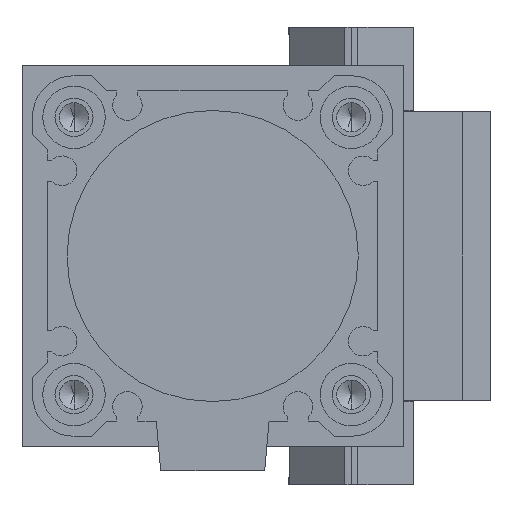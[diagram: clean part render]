
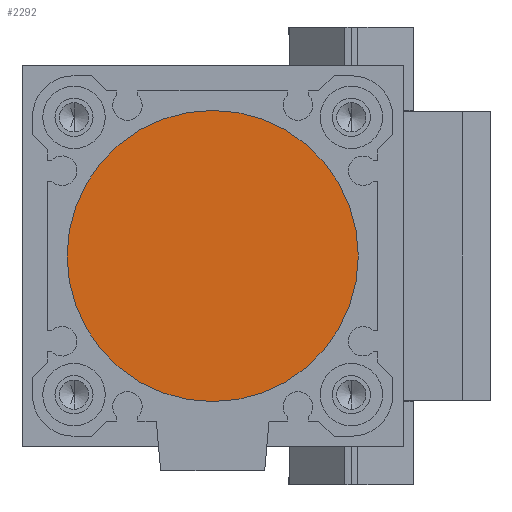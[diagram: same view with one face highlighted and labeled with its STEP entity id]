
A CAD part, front view. The second image highlights one B-rep face of the part: STEP entity #2292.
In plain terms, the highlighted planar face has unit normal (0, -1, 0) as drawn and (1, 0, 0) by its records, which use the part's own axes.
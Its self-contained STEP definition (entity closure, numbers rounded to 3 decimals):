
#246 = AXIS2_PLACEMENT_3D ( 'NONE', #6727, #6738, #6739 ) ;
#504 = FACE_OUTER_BOUND ( 'NONE', #2551, .T. ) ;
#992 = VERTEX_POINT ( 'NONE', #4271 ) ;
#993 = VERTEX_POINT ( 'NONE', #4272 ) ;
#1622 = EDGE_CURVE ( 'NONE', #992, #993, #3023, .T. ) ;
#2054 = CIRCLE ( 'NONE', #5067, 21. ) ;
#2292 = ADVANCED_FACE ( 'NONE', ( #504 ), #6736, .T. ) ;
#2551 = EDGE_LOOP ( 'NONE', ( #6152, #6153 ) ) ;
#2913 = CARTESIAN_POINT ( 'NONE',  ( 77.5, 0., 0. ) ) ;
#2914 = DIRECTION ( 'NONE',  ( 1., 0., 0. ) ) ;
#2915 = DIRECTION ( 'NONE',  ( 0., 0., -1. ) ) ;
#3023 = CIRCLE ( 'NONE', #4918, 21. ) ;
#4271 = CARTESIAN_POINT ( 'NONE',  ( 77.5, 0., 21. ) ) ;
#4272 = CARTESIAN_POINT ( 'NONE',  ( 77.5, 0., -21. ) ) ;
#4816 = CARTESIAN_POINT ( 'NONE',  ( 77.5, 0., 0. ) ) ;
#4817 = DIRECTION ( 'NONE',  ( 1., 0., 0. ) ) ;
#4818 = DIRECTION ( 'NONE',  ( 0., 0., -1. ) ) ;
#4918 = AXIS2_PLACEMENT_3D ( 'NONE', #4816, #4817, #4818 ) ;
#5067 = AXIS2_PLACEMENT_3D ( 'NONE', #2913, #2914, #2915 ) ;
#5625 = EDGE_CURVE ( 'NONE', #993, #992, #2054, .T. ) ;
#6152 = ORIENTED_EDGE ( 'NONE', *, *, #5625, .T. ) ;
#6153 = ORIENTED_EDGE ( 'NONE', *, *, #1622, .T. ) ;
#6727 = CARTESIAN_POINT ( 'NONE',  ( 77.5, 0., 0. ) ) ;
#6736 = PLANE ( 'NONE',  #246 ) ;
#6738 = DIRECTION ( 'NONE',  ( 1., 0., 0. ) ) ;
#6739 = DIRECTION ( 'NONE',  ( 0., 0., -1. ) ) ;
